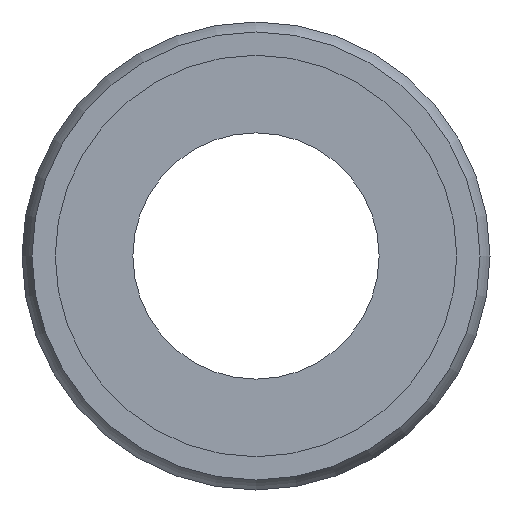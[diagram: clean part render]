
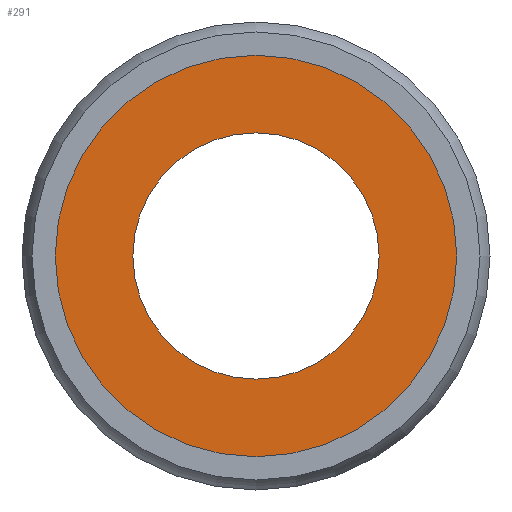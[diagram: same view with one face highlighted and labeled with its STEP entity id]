
A CAD part, left-side view. The second image highlights one B-rep face of the part: STEP entity #291.
In plain terms, the highlighted planar face has unit normal (-1, 0, 0).
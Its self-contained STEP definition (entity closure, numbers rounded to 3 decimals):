
#257=CARTESIAN_POINT('',(0.1,0.0,8.15));
#258=VERTEX_POINT('',#257);
#259=CARTESIAN_POINT('',(0.1,0.0,0.));
#260=DIRECTION('',(-1.0,0.0,0.0));
#261=DIRECTION('',(0.0,0.0,1.0));
#262=AXIS2_PLACEMENT_3D('',#259,#260,#261);
#263=CIRCLE('',#262,8.15);
#264=EDGE_CURVE('',#258,#258,#263,.T.);
#272=CARTESIAN_POINT('',(0.1,0.0,6.575));
#273=DIRECTION('',(-1.0,0.0,0.0));
#274=DIRECTION('',(0.0,0.0,1.0));
#275=AXIS2_PLACEMENT_3D('',#272,#273,#274);
#276=PLANE('',#275);
#277=ORIENTED_EDGE('',*,*,#264,.T.);
#278=EDGE_LOOP('',(#277));
#279=FACE_OUTER_BOUND('',#278,.T.);
#280=CARTESIAN_POINT('',(0.1,0.0,5.));
#281=VERTEX_POINT('',#280);
#282=CARTESIAN_POINT('',(0.1,0.0,0.));
#283=DIRECTION('',(-1.0,0.0,0.0));
#284=DIRECTION('',(0.0,0.0,1.0));
#285=AXIS2_PLACEMENT_3D('',#282,#283,#284);
#286=CIRCLE('',#285,5.);
#287=EDGE_CURVE('',#281,#281,#286,.T.);
#288=ORIENTED_EDGE('',*,*,#287,.F.);
#289=EDGE_LOOP('',(#288));
#290=FACE_BOUND('',#289,.T.);
#291=ADVANCED_FACE('',(#279,#290),#276,.T.);
